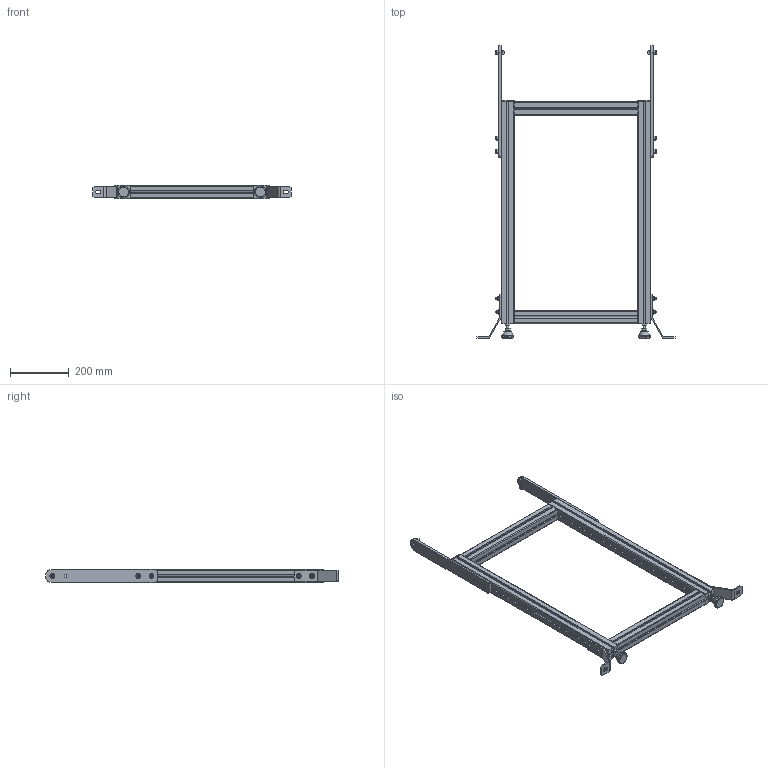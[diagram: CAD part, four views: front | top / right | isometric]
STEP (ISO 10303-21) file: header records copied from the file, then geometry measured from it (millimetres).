
FILE_DESCRIPTION (( 'STEP AP214' ), '1' );
FILE_NAME ('983-008-500.STEP', '2020-11-23T08:35:18', ( '' ), ( '' ), 'SwSTEP 2.0', 'SolidWorks 2020', '' );
FILE_SCHEMA (( 'AUTOMOTIVE_DESIGN' ));
Length unit declared in the file: millimetre
Products named in the file (15): 935-055SV; 910-002_910-235; 935-016; 935-055; 905-021; CHASSIS JAMBAGE TB52 500_D‚faut[Brut d''usinage]; 983-007; 910-100; CHC THE_910-052H; CHC M8X20 + RP8; 983-008-500; EMBOUT_915-010; 905-020; RONDELLE_910-111; 982-017
Assembly tree (22 placements, depth 4):
  983-008-500
    CHASSIS JAMBAGE TB52 500_D‚faut[Brut d''usinage]
    935-055  x2
      935-055SV
      910-100
      910-002_910-235
    EMBOUT_915-010  x2
    983-007  x2
      CHC M8X20 + RP8
        CHC THE_910-052H
        RONDELLE_910-111
      905-020
      905-021
      982-017
    935-016  x2
Bounding box: 676 x 996.5 x 45 mm (x, y, z)
Volume: 3436521.7 mm3; surface area: 1001832 mm2
Topology: 36 solids, 36 shells, 784 faces, 1912 edges, 1216 vertices
Faces by surface type: plane 530, cylinder 160, cone 72, torus 12, sphere 8, bspline 2
Full cylindrical faces by diameter (mm): 6 x6, 6.8 x10, 7.3 x4, 7.98 x6, 8 x14, 8.4 x6, 8.5 x8, 9 x4, 13 x6, 16 x6, 17 x4, 34 x2, 40 x2
Entity records: 11805 total; most frequent: CARTESIAN_POINT 2065, DIRECTION 1858, ORIENTED_EDGE 1828, EDGE_CURVE 914, LINE 732, VECTOR 732, VERTEX_POINT 618, AXIS2_PLACEMENT_3D 563
